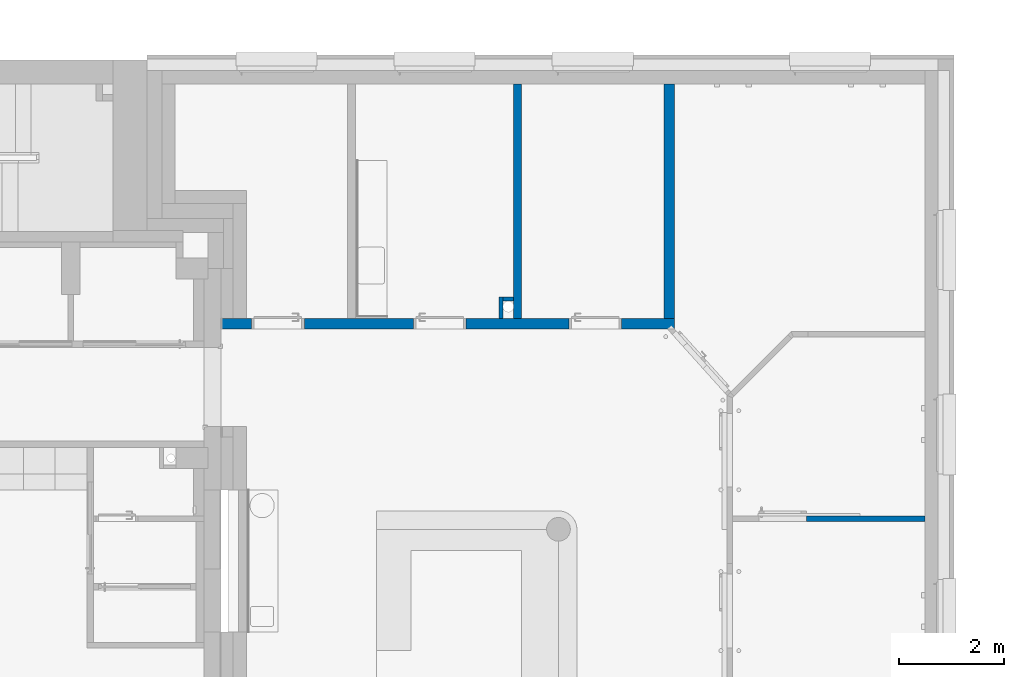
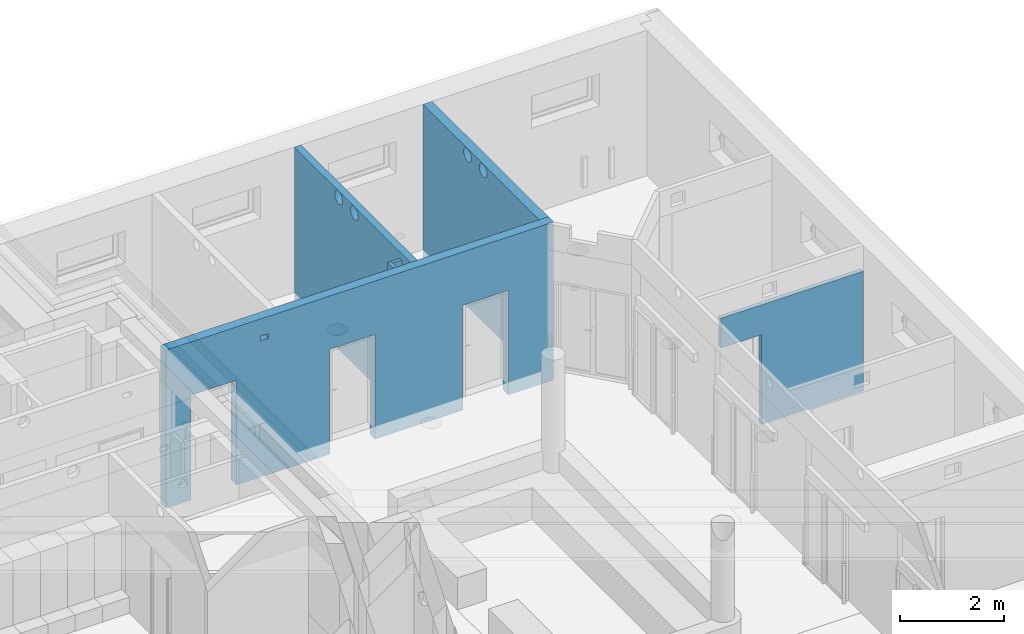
# One storey, part 59 of 140: 6 walls, 9 openings.
"""IFC4 building model written with IfcOpenShell, lengths in metres."""

from ifc_helpers import new_model, entity, si_unit, converted_unit, derived_unit, frame, frame_2d, origin, origin_with_axes, place, context, subcontext, project, spatial, polyline, rectangle, outline, extrude, material, layer, layer_set, layer_usage, element, save


model = new_model("IFC4")

# Units and contexts
model_context = context("Model", 3, precision=1e-05, world=origin())
body_context = subcontext(model_context, "Body", "Model", "MODEL_VIEW")
ifc_project = project(units=[si_unit("LENGTHUNIT", "METRE"), si_unit("AREAUNIT", "SQUARE_METRE"), si_unit("VOLUMEUNIT", "CUBIC_METRE"), si_unit("MASSUNIT", "GRAM", prefix="KILO"), converted_unit("PLANEANGLEUNIT", "DEGREE", entity("IfcPlaneAngleMeasure", 0.0174532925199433), si_unit("PLANEANGLEUNIT", "RADIAN"), dimensions=[0, 0, 0, 0, 0, 0, 0]), derived_unit("THERMALTRANSMITTANCEUNIT", [(si_unit("POWERUNIT", "WATT"), 1), (si_unit("THERMODYNAMICTEMPERATUREUNIT", "KELVIN"), -1), (si_unit("LENGTHUNIT", "METRE"), -2)]), derived_unit("VOLUMETRICFLOWRATEUNIT", [(si_unit("LENGTHUNIT", "METRE"), 3), (converted_unit("TIMEUNIT", "hour", entity("IfcTimeMeasure", 3600.0), si_unit("TIMEUNIT", "SECOND"), dimensions=[0, 0, 1, 0, 0, 0, 0]), -1), (si_unit("LENGTHUNIT", "METRE"), -1)])], contexts=[model_context])

# Site, building, storey
site_placement = place(None, origin())
site = spatial("IfcSite", under=ifc_project, at=site_placement, Name="3. ASŘ", CompositionType="ELEMENT")
building_placement = place(site_placement, origin())
building = spatial("IfcBuilding", under=site, at=building_placement, Name="Pavilon C", CompositionType="ELEMENT")
storey_placement = place(building_placement, origin())
storey = spatial("IfcBuildingStorey", under=building, at=storey_placement, Name="Půdorys 1.NP", CompositionType="ELEMENT", Elevation=0.0)

# Wall, opening
ifc_material_1 = material(Name="PROSKLENÁ PŘÍČKA DVOJITÁ")
ifc_layer_1 = layer(ifc_material_1, 0.1)
ifc_layer_set_1 = layer_set([ifc_layer_1])
ifc_layer_usage_1 = layer_usage(ifc_layer_set_1, "AXIS2", "POSITIVE", 0.0)
wall_1_placement = place(storey_placement, frame((60.4, 24.0, 0.0)))
wall_1 = element("IfcWall", 1, at=wall_1_placement, inside=storey, material=ifc_layer_usage_1, Name="PROSKLENÁ PŘÍČKA DVOJITÁ", context=body_context, shape_type="SweptSolid", body=[
    extrude(rectangle(XDim=3.15, YDim=0.1, at=frame_2d((1.575, 0.05), x_axis=(1.0, 0.0))), origin_with_axes(), (0.0, 0.0, 1.0), 2.8),
])
opening_1_placement = place(wall_1_placement, frame((0.0, 0.0, 0.0), z_axis=(0.0, 1.0, 0.0), x_axis=(0.0, 0.0, 1.0)))
element("IfcOpeningElement", 2, at=opening_1_placement, cuts=wall_1, Name="Dveřní otvor", ObjectType="Opening", context=body_context, shape_type="SweptSolid", body=[
    extrude(outline(polyline([(0.0, 0.9), (2.1, 0.9), (2.1, 0.0), (0.0, 0.0), (0.0, 0.9)])), origin_with_axes(), (0.0, 0.0, 1.0), 0.1),
])

# Wall, openings
ifc_material_2 = material(Name="ZELEZOBETONOVÁ KCE")
ifc_layer_2 = layer(ifc_material_2, 0.2)
ifc_layer_set_2 = layer_set([ifc_layer_2])
ifc_layer_usage_2 = layer_usage(ifc_layer_set_2, "AXIS2", "POSITIVE", 0.0)
wall_2_placement = place(storey_placement, frame((58.8, 27.85, -0.3), z_axis=(0.0, 0.0, 1.0), x_axis=(0.0, 1.0, 0.0)))
wall_2 = element("IfcWall", 3, at=wall_2_placement, inside=storey, material=ifc_layer_usage_2, Name="ZELEZOBETONOVÁ KCE", context=body_context, shape_type="SweptSolid", body=[
    extrude(rectangle(XDim=4.45, YDim=0.2, at=frame_2d((2.225, 0.1), x_axis=(1.0, 0.0))), origin_with_axes(), (0.0, 0.0, 1.0), 3.7),
])
opening_2_placement = place(wall_2_placement, frame((2.6, 0.0, 3.40000000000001), z_axis=(0.0, 1.0, 0.0), x_axis=(0.0, 0.0, 1.0)))
element("IfcOpeningElement", 4, at=opening_2_placement, cuts=wall_2, Name="VZT", ObjectType="Opening", context=body_context, shape_type="SweptSolid", body=[
    extrude(outline(polyline([(0.149999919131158, 0.0), (0.134320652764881, 0.00082172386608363), (0.11881317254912, 0.00327787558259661), (0.103647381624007, 0.00734154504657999), (0.0889894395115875, 0.0129682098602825), (0.0749999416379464, 0.0200962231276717), (0.0618321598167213, 0.0286474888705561), (0.0496303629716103, 0.038528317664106), (0.0385282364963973, 0.0496304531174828), (0.0286474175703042, 0.0618322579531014), (0.0200961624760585, 0.0750000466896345), (0.0129681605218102, 0.088989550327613), (0.00734150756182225, 0.103647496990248), (0.00327785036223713, 0.118813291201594), (0.000821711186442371, 0.134320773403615), (0.0, 0.15000004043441), (0.000821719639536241, 0.16567930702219), (0.00327786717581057, 0.181186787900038), (0.00734153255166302, 0.196352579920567), (0.012968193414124, 0.211010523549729), (0.0200962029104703, 0.225000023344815), (0.0286474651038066, 0.238167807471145), (0.0385282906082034, 0.250369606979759), (0.0496304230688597, 0.261471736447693), (0.0618322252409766, 0.271352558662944), (0.0750000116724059, 0.279903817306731), (0.088989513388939, 0.28703182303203), (0.103647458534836, 0.292658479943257), (0.118813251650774, 0.296722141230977), (0.134320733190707, 0.299178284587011), (0.149999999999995, 0.3), (0.165679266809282, 0.299178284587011), (0.181186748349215, 0.296722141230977), (0.196352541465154, 0.292658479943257), (0.21101048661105, 0.28703182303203), (0.224999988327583, 0.279903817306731), (0.238167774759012, 0.271352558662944), (0.250369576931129, 0.261471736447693), (0.261471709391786, 0.250369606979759), (0.271352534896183, 0.238167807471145), (0.279903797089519, 0.225000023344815), (0.287031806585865, 0.211010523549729), (0.292658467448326, 0.196352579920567), (0.296722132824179, 0.181186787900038), (0.299178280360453, 0.16567930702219), (0.299999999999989, 0.15000004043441), (0.299178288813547, 0.134320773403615), (0.296722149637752, 0.118813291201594), (0.292658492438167, 0.103647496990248), (0.287031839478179, 0.088989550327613), (0.279903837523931, 0.0750000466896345), (0.271352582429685, 0.0618322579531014), (0.261471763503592, 0.0496304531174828), (0.250369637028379, 0.038528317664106), (0.238167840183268, 0.0286474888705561), (0.225000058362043, 0.0200962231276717), (0.211010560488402, 0.0129682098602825), (0.196352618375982, 0.00734154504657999), (0.181186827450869, 0.00327787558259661), (0.165679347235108, 0.00082172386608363), (0.149999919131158, 0.0)])), origin_with_axes(), (0.0, 0.0, 1.0), 0.2),
])
opening_3_placement = place(wall_2_placement, frame((2.0, 0.0, 3.40000000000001), z_axis=(0.0, 1.0, 0.0), x_axis=(0.0, 0.0, 1.0)))
element("IfcOpeningElement", 5, at=opening_3_placement, cuts=wall_2, Name="VZT", ObjectType="Opening", context=body_context, shape_type="SweptSolid", body=[
    extrude(outline(polyline([(0.149999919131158, 0.0), (0.134320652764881, 0.00082172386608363), (0.11881317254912, 0.00327787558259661), (0.103647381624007, 0.00734154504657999), (0.0889894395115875, 0.0129682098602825), (0.0749999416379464, 0.0200962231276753), (0.0618321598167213, 0.0286474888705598), (0.0496303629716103, 0.038528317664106), (0.0385282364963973, 0.0496304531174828), (0.0286474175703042, 0.061832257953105), (0.0200961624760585, 0.0750000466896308), (0.0129681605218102, 0.088989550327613), (0.00734150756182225, 0.103647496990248), (0.00327785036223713, 0.118813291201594), (0.000821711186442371, 0.134320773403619), (0.0, 0.15000004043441), (0.000821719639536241, 0.16567930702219), (0.00327786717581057, 0.181186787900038), (0.00734153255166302, 0.196352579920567), (0.012968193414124, 0.211010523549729), (0.0200962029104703, 0.225000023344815), (0.0286474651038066, 0.238167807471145), (0.0385282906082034, 0.250369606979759), (0.0496304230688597, 0.261471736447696), (0.0618322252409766, 0.27135255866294), (0.0750000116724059, 0.279903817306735), (0.088989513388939, 0.28703182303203), (0.103647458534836, 0.292658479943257), (0.118813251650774, 0.296722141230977), (0.134320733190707, 0.299178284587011), (0.149999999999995, 0.3), (0.165679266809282, 0.299178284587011), (0.181186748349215, 0.296722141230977), (0.196352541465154, 0.292658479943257), (0.21101048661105, 0.28703182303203), (0.224999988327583, 0.279903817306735), (0.238167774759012, 0.27135255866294), (0.250369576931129, 0.261471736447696), (0.261471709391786, 0.250369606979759), (0.271352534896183, 0.238167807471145), (0.279903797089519, 0.225000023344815), (0.287031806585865, 0.211010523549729), (0.292658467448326, 0.196352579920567), (0.296722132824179, 0.181186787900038), (0.299178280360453, 0.16567930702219), (0.299999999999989, 0.15000004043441), (0.299178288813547, 0.134320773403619), (0.296722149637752, 0.118813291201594), (0.292658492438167, 0.103647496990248), (0.287031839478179, 0.088989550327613), (0.279903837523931, 0.0750000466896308), (0.271352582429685, 0.061832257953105), (0.261471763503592, 0.0496304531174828), (0.250369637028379, 0.038528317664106), (0.238167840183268, 0.0286474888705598), (0.225000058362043, 0.0200962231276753), (0.211010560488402, 0.0129682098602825), (0.196352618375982, 0.00734154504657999), (0.181186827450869, 0.00327787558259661), (0.165679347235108, 0.00082172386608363), (0.149999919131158, 0.0)])), origin_with_axes(), (0.0, 0.0, 1.0), 0.2),
])

ifc_material_3 = material(Name="ZELEZOBETONOVÁ KCE")
ifc_layer_3 = layer(ifc_material_3, 0.2)
ifc_layer_set_3 = layer_set([ifc_layer_3])
ifc_layer_usage_3 = layer_usage(ifc_layer_set_3, "AXIS2", "POSITIVE", 0.0)
wall_3_placement = place(storey_placement, frame((50.22, 27.65, -0.3)))
wall_3 = element("IfcWall", 6, at=wall_3_placement, inside=storey, material=ifc_layer_usage_3, Name="ZELEZOBETONOVÁ KCE", context=body_context, shape_type="SweptSolid", body=[
    extrude(rectangle(XDim=8.58, YDim=0.2, at=frame_2d((4.29, 0.1), x_axis=(1.0, 0.0))), origin_with_axes(), (0.0, 0.0, 1.0), 3.7),
])
opening_4_placement = place(wall_3_placement, frame((7.58, 0.2, 0.0), z_axis=(0.0, -1.0, 0.0), x_axis=(0.0, 0.0, 1.0)))
element("IfcOpeningElement", 7, at=opening_4_placement, cuts=wall_3, Name="Dveřní otvor", ObjectType="Opening", context=body_context, shape_type="SweptSolid", body=[
    extrude(outline(polyline([(0.0, 1.0), (2.45, 1.0), (2.45, 0.0), (0.0, 0.0), (0.0, 1.0)])), origin_with_axes(), (0.0, 0.0, 1.0), 0.2),
])
opening_5_placement = place(wall_3_placement, frame((4.63, 0.2, 0.0), z_axis=(0.0, -1.0, 0.0), x_axis=(0.0, 0.0, 1.0)))
element("IfcOpeningElement", 8, at=opening_5_placement, cuts=wall_3, Name="Dveřní otvor", ObjectType="Opening", context=body_context, shape_type="SweptSolid", body=[
    extrude(outline(polyline([(0.0, 1.0), (2.45, 1.0), (2.45, 0.0), (0.0, 0.0), (0.0, 1.0)])), origin_with_axes(), (0.0, 0.0, 1.0), 0.2),
])
opening_6_placement = place(wall_3_placement, frame((1.56, 0.2, 0.0), z_axis=(0.0, -1.0, 0.0), x_axis=(0.0, 0.0, 1.0)))
element("IfcOpeningElement", 9, at=opening_6_placement, cuts=wall_3, Name="Dveřní otvor", ObjectType="Opening", context=body_context, shape_type="SweptSolid", body=[
    extrude(outline(polyline([(0.0, 1.0), (2.45, 1.0), (2.45, 0.0), (0.0, 0.0), (0.0, 1.0)])), origin_with_axes(), (0.0, 0.0, 1.0), 0.2),
])
opening_7_placement = place(wall_3_placement, frame((2.0925, 0.0, 3.19), z_axis=(0.0, 1.0, 0.0), x_axis=(0.0, 0.0, 1.0)))
element("IfcOpeningElement", 10, at=opening_7_placement, cuts=wall_3, Name="ZTI", ObjectType="Opening", context=body_context, shape_type="SweptSolid", body=[
    extrude(outline(polyline([(0.0, 0.175), (0.11, 0.175), (0.11, 0.0), (0.0, 0.0), (0.0, 0.175)])), origin_with_axes(), (0.0, 0.0, 1.0), 0.2),
])

ifc_material_4 = material(Name="SDK - 1 KCE + DVOJITÉ OPLÁŠTĚNÍ")
ifc_layer_4 = layer(ifc_material_4, 0.15)
ifc_layer_set_4 = layer_set([ifc_layer_4])
ifc_layer_usage_4 = layer_usage(ifc_layer_set_4, "AXIS2", "POSITIVE", 0.0)
wall_4_placement = place(storey_placement, frame((55.9, 27.85, -0.3), z_axis=(0.0, 0.0, 1.0), x_axis=(0.0, 1.0, 0.0)))
wall_4 = element("IfcWall", 11, at=wall_4_placement, inside=storey, material=ifc_layer_usage_4, Name="SDK - 1 KCE + DVOJITÉ OPLÁŠTĚNÍ", context=body_context, shape_type="SweptSolid", body=[
    extrude(rectangle(XDim=4.45, YDim=0.15, at=frame_2d((2.225, 0.075), x_axis=(1.0, 0.0))), origin_with_axes(), (0.0, 0.0, 1.0), 3.7),
])
opening_8_placement = place(wall_4_placement, frame((2.6, 0.0, 3.40000000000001), z_axis=(0.0, 1.0, 0.0), x_axis=(0.0, 0.0, 1.0)))
element("IfcOpeningElement", 12, at=opening_8_placement, cuts=wall_4, Name="VZT", ObjectType="Opening", context=body_context, shape_type="SweptSolid", body=[
    extrude(outline(polyline([(0.149999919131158, 0.0), (0.134320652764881, 0.00082172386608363), (0.11881317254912, 0.00327787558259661), (0.103647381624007, 0.00734154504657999), (0.0889894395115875, 0.0129682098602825), (0.0749999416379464, 0.0200962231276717), (0.0618321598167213, 0.0286474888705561), (0.0496303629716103, 0.038528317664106), (0.0385282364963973, 0.0496304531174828), (0.0286474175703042, 0.0618322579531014), (0.0200961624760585, 0.0750000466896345), (0.0129681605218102, 0.088989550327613), (0.00734150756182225, 0.103647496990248), (0.00327785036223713, 0.118813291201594), (0.000821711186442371, 0.134320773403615), (0.0, 0.15000004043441), (0.000821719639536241, 0.16567930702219), (0.00327786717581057, 0.181186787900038), (0.00734153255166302, 0.196352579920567), (0.012968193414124, 0.211010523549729), (0.0200962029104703, 0.225000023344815), (0.0286474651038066, 0.238167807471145), (0.0385282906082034, 0.250369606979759), (0.0496304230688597, 0.261471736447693), (0.0618322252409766, 0.271352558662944), (0.0750000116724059, 0.279903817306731), (0.088989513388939, 0.28703182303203), (0.103647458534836, 0.292658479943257), (0.118813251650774, 0.296722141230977), (0.134320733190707, 0.299178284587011), (0.149999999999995, 0.3), (0.165679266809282, 0.299178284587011), (0.181186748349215, 0.296722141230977), (0.196352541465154, 0.292658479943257), (0.21101048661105, 0.28703182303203), (0.224999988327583, 0.279903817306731), (0.238167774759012, 0.271352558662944), (0.250369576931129, 0.261471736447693), (0.261471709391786, 0.250369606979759), (0.271352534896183, 0.238167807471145), (0.279903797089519, 0.225000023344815), (0.287031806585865, 0.211010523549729), (0.292658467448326, 0.196352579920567), (0.296722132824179, 0.181186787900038), (0.299178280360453, 0.16567930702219), (0.299999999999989, 0.15000004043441), (0.299178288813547, 0.134320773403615), (0.296722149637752, 0.118813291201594), (0.292658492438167, 0.103647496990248), (0.287031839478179, 0.088989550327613), (0.279903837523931, 0.0750000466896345), (0.271352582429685, 0.0618322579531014), (0.261471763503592, 0.0496304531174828), (0.250369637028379, 0.038528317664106), (0.238167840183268, 0.0286474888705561), (0.225000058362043, 0.0200962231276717), (0.211010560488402, 0.0129682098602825), (0.196352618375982, 0.00734154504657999), (0.181186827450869, 0.00327787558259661), (0.165679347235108, 0.00082172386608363), (0.149999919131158, 0.0)])), origin_with_axes(), (0.0, 0.0, 1.0), 0.15),
])
opening_9_placement = place(wall_4_placement, frame((2.0, 0.0, 3.40000000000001), z_axis=(0.0, 1.0, 0.0), x_axis=(0.0, 0.0, 1.0)))
element("IfcOpeningElement", 13, at=opening_9_placement, cuts=wall_4, Name="VZT", ObjectType="Opening", context=body_context, shape_type="SweptSolid", body=[
    extrude(outline(polyline([(0.149999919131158, 0.0), (0.134320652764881, 0.00082172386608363), (0.11881317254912, 0.00327787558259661), (0.103647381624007, 0.00734154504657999), (0.0889894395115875, 0.0129682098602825), (0.0749999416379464, 0.0200962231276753), (0.0618321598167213, 0.0286474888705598), (0.0496303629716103, 0.038528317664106), (0.0385282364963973, 0.0496304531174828), (0.0286474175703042, 0.061832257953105), (0.0200961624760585, 0.0750000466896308), (0.0129681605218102, 0.088989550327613), (0.00734150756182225, 0.103647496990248), (0.00327785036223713, 0.118813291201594), (0.000821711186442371, 0.134320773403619), (0.0, 0.15000004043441), (0.000821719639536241, 0.16567930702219), (0.00327786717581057, 0.181186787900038), (0.00734153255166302, 0.196352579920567), (0.012968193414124, 0.211010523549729), (0.0200962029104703, 0.225000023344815), (0.0286474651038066, 0.238167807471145), (0.0385282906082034, 0.250369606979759), (0.0496304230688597, 0.261471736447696), (0.0618322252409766, 0.27135255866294), (0.0750000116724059, 0.279903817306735), (0.088989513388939, 0.28703182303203), (0.103647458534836, 0.292658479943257), (0.118813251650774, 0.296722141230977), (0.134320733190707, 0.299178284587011), (0.149999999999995, 0.3), (0.165679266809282, 0.299178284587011), (0.181186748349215, 0.296722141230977), (0.196352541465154, 0.292658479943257), (0.21101048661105, 0.28703182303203), (0.224999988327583, 0.279903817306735), (0.238167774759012, 0.27135255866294), (0.250369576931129, 0.261471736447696), (0.261471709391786, 0.250369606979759), (0.271352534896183, 0.238167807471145), (0.279903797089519, 0.225000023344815), (0.287031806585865, 0.211010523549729), (0.292658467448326, 0.196352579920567), (0.296722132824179, 0.181186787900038), (0.299178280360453, 0.16567930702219), (0.299999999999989, 0.15000004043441), (0.299178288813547, 0.134320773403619), (0.296722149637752, 0.118813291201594), (0.292658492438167, 0.103647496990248), (0.287031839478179, 0.088989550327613), (0.279903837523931, 0.0750000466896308), (0.271352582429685, 0.061832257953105), (0.261471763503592, 0.0496304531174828), (0.250369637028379, 0.038528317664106), (0.238167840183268, 0.0286474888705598), (0.225000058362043, 0.0200962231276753), (0.211010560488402, 0.0129682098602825), (0.196352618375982, 0.00734154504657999), (0.181186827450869, 0.00327787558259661), (0.165679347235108, 0.00082172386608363), (0.149999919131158, 0.0)])), origin_with_axes(), (0.0, 0.0, 1.0), 0.15),
])

# Walls
ifc_material_5 = material(Name="SDK OPL. PROFESÍ/SDK OPL. BEZ PO")
ifc_layer_5 = layer(ifc_material_5, 0.075)
ifc_layer_set_5 = layer_set([ifc_layer_5])
ifc_layer_usage_5 = layer_usage(ifc_layer_set_5, "AXIS2", "POSITIVE", 0.0)
wall_5_placement = place(storey_placement, frame((55.55, 28.18, 0.0)))
element("IfcWall", 14, at=wall_5_placement, inside=storey, material=ifc_layer_usage_5, Name="SDK OPL. PROFESÍ/SDK OPL. BEZ PO", context=body_context, shape_type="SweptSolid", body=[
    extrude(rectangle(XDim=0.2, YDim=0.075, at=frame_2d((0.1, 0.0375), x_axis=(1.0, 0.0))), origin_with_axes(), (0.0, 0.0, 1.0), 3.25),
])
ifc_material_6 = material(Name="SDK OPL. PROFESÍ/SDK OPL. BEZ PO")
ifc_layer_6 = layer(ifc_material_6, 0.075)
ifc_layer_set_6 = layer_set([ifc_layer_6])
ifc_layer_usage_6 = layer_usage(ifc_layer_set_6, "AXIS2", "POSITIVE", 0.0)
wall_6_placement = place(storey_placement, frame((55.55, 27.85, 0.0), z_axis=(0.0, 0.0, 1.0), x_axis=(0.0, 1.0, 0.0)))
element("IfcWall", 15, at=wall_6_placement, inside=storey, material=ifc_layer_usage_6, Name="SDK OPL. PROFESÍ/SDK OPL. BEZ PO", context=body_context, shape_type="SweptSolid", body=[
    extrude(rectangle(XDim=0.405, YDim=0.075, at=frame_2d((0.2025, 0.0375), x_axis=(1.0, 0.0))), origin_with_axes(), (0.0, 0.0, 1.0), 3.25),
])

save(model, "model.ifc")
